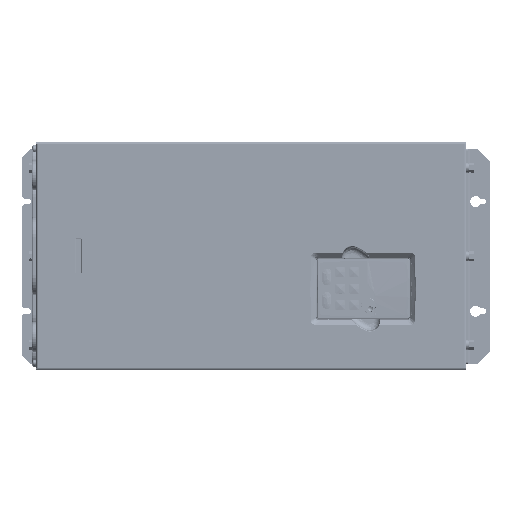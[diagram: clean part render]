
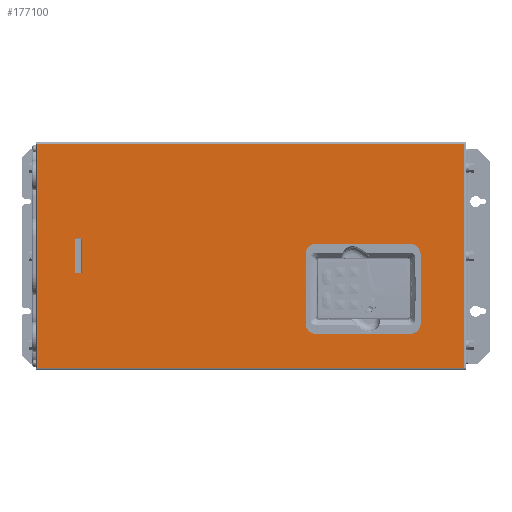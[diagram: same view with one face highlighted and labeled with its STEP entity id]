
A CAD part, top view. The second image highlights one B-rep face of the part: STEP entity #177100.
In plain terms, the highlighted planar face has unit normal (0, 0, 1) as drawn and (0, -1, 0) by its records, which use the part's own axes.
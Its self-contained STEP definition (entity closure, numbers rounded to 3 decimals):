
#174747=DIRECTION('',(-1.,0.,0.));
#174748=VECTOR('',#174747,265.2);
#174749=CARTESIAN_POINT('',(132.6,-1.2,252.6));
#174750=LINE('',#174749,#174748);
#174884=DIRECTION('',(0.,0.,-1.));
#174885=VECTOR('',#174884,505.2);
#174886=CARTESIAN_POINT('',(-132.6,-1.2,252.6));
#174887=LINE('',#174886,#174885);
#174897=DIRECTION('',(0.,0.,-1.));
#174898=VECTOR('',#174897,111.501);
#174899=CARTESIAN_POINT('',(92.5,-1.2,188.25));
#174900=LINE('',#174899,#174898);
#174901=CARTESIAN_POINT('',(80.,-1.2,188.25));
#174902=DIRECTION('',(0.,-1.,0.));
#174903=DIRECTION('',(1.,0.,0.));
#174904=AXIS2_PLACEMENT_3D('',#174901,#174902,#174903);
#174906=DIRECTION('',(1.,0.,0.));
#174907=VECTOR('',#174906,82.);
#174908=CARTESIAN_POINT('',(-2.,-1.2,200.75));
#174909=LINE('',#174908,#174907);
#174910=CARTESIAN_POINT('',(-2.,-1.2,188.25));
#174911=DIRECTION('',(0.,-1.,0.));
#174912=DIRECTION('',(0.,0.,1.));
#174913=AXIS2_PLACEMENT_3D('',#174910,#174911,#174912);
#174915=DIRECTION('',(0.,0.,1.));
#174916=VECTOR('',#174915,111.501);
#174917=CARTESIAN_POINT('',(-14.5,-1.2,76.749));
#174918=LINE('',#174917,#174916);
#174919=CARTESIAN_POINT('',(-2.,-1.2,76.749));
#174920=DIRECTION('',(0.,-1.,0.));
#174921=DIRECTION('',(-1.,0.,0.));
#174922=AXIS2_PLACEMENT_3D('',#174919,#174920,#174921);
#174924=DIRECTION('',(-1.,0.,0.));
#174925=VECTOR('',#174924,82.);
#174926=CARTESIAN_POINT('',(80.,-1.2,64.249));
#174927=LINE('',#174926,#174925);
#174928=CARTESIAN_POINT('',(80.,-1.2,76.749));
#174929=DIRECTION('',(0.,-1.,0.));
#174930=DIRECTION('',(0.,0.,-1.));
#174931=AXIS2_PLACEMENT_3D('',#174928,#174929,#174930);
#174933=DIRECTION('',(0.,0.,1.));
#174934=VECTOR('',#174933,6.6);
#174935=CARTESIAN_POINT('',(-20.7,-1.2,-208.3));
#174936=LINE('',#174935,#174934);
#174937=CARTESIAN_POINT('',(-20.3,-1.2,-208.3));
#174938=DIRECTION('',(0.,-1.,0.));
#174939=DIRECTION('',(-1.,0.,0.));
#174940=AXIS2_PLACEMENT_3D('',#174937,#174938,#174939);
#174942=DIRECTION('',(-1.,0.,0.));
#174943=VECTOR('',#174942,40.6);
#174944=CARTESIAN_POINT('',(20.3,-1.2,-208.7));
#174945=LINE('',#174944,#174943);
#174946=CARTESIAN_POINT('',(20.3,-1.2,-208.3));
#174947=DIRECTION('',(0.,-1.,0.));
#174948=DIRECTION('',(0.,0.,-1.));
#174949=AXIS2_PLACEMENT_3D('',#174946,#174947,#174948);
#174951=DIRECTION('',(0.,0.,-1.));
#174952=VECTOR('',#174951,6.6);
#174953=CARTESIAN_POINT('',(20.7,-1.2,-201.7));
#174954=LINE('',#174953,#174952);
#174955=CARTESIAN_POINT('',(20.3,-1.2,-201.7));
#174956=DIRECTION('',(0.,-1.,0.));
#174957=DIRECTION('',(1.,0.,0.));
#174958=AXIS2_PLACEMENT_3D('',#174955,#174956,#174957);
#174960=DIRECTION('',(1.,0.,0.));
#174961=VECTOR('',#174960,40.6);
#174962=CARTESIAN_POINT('',(-20.3,-1.2,-201.3));
#174963=LINE('',#174962,#174961);
#174964=CARTESIAN_POINT('',(-20.3,-1.2,-201.7));
#174965=DIRECTION('',(0.,-1.,0.));
#174966=DIRECTION('',(0.,0.,1.));
#174967=AXIS2_PLACEMENT_3D('',#174964,#174965,#174966);
#174982=DIRECTION('',(0.,0.,1.));
#174983=VECTOR('',#174982,505.2);
#174984=CARTESIAN_POINT('',(132.6,-1.2,-252.6));
#174985=LINE('',#174984,#174983);
#175091=DIRECTION('',(1.,0.,0.));
#175092=VECTOR('',#175091,265.2);
#175093=CARTESIAN_POINT('',(-132.6,-1.2,-252.6));
#175094=LINE('',#175093,#175092);
#175895=CARTESIAN_POINT('',(-132.6,-1.2,252.6));
#175896=VERTEX_POINT('',#175895);
#175899=CARTESIAN_POINT('',(132.6,-1.2,252.6));
#175900=VERTEX_POINT('',#175899);
#175927=CARTESIAN_POINT('',(132.6,-1.2,-252.6));
#175928=VERTEX_POINT('',#175927);
#175931=CARTESIAN_POINT('',(-132.6,-1.2,-252.6));
#175932=VERTEX_POINT('',#175931);
#176093=CARTESIAN_POINT('',(92.5,-1.2,188.25));
#176094=CARTESIAN_POINT('',(92.5,-1.2,76.749));
#176095=VERTEX_POINT('',#176093);
#176096=VERTEX_POINT('',#176094);
#176097=CARTESIAN_POINT('',(80.,-1.2,64.249));
#176098=VERTEX_POINT('',#176097);
#176099=CARTESIAN_POINT('',(-2.,-1.2,64.249));
#176100=VERTEX_POINT('',#176099);
#176101=CARTESIAN_POINT('',(-14.5,-1.2,76.749));
#176102=VERTEX_POINT('',#176101);
#176103=CARTESIAN_POINT('',(-14.5,-1.2,188.25));
#176104=VERTEX_POINT('',#176103);
#176105=CARTESIAN_POINT('',(-2.,-1.2,200.75));
#176106=VERTEX_POINT('',#176105);
#176107=CARTESIAN_POINT('',(80.,-1.2,200.75));
#176108=VERTEX_POINT('',#176107);
#176153=CARTESIAN_POINT('',(-20.7,-1.2,-208.3));
#176154=CARTESIAN_POINT('',(-20.7,-1.2,-201.7));
#176155=VERTEX_POINT('',#176153);
#176156=VERTEX_POINT('',#176154);
#176171=CARTESIAN_POINT('',(-20.3,-1.2,-201.3));
#176172=CARTESIAN_POINT('',(20.3,-1.2,-201.3));
#176173=VERTEX_POINT('',#176171);
#176174=VERTEX_POINT('',#176172);
#176179=CARTESIAN_POINT('',(20.7,-1.2,-201.7));
#176180=CARTESIAN_POINT('',(20.7,-1.2,-208.3));
#176181=VERTEX_POINT('',#176179);
#176182=VERTEX_POINT('',#176180);
#176197=CARTESIAN_POINT('',(20.3,-1.2,-208.7));
#176198=CARTESIAN_POINT('',(-20.3,-1.2,-208.7));
#176199=VERTEX_POINT('',#176197);
#176200=VERTEX_POINT('',#176198);
#177051=CARTESIAN_POINT('',(0.,-1.2,0.));
#177052=DIRECTION('',(0.,1.,0.));
#177053=DIRECTION('',(1.,0.,0.));
#177054=AXIS2_PLACEMENT_3D('',#177051,#177052,#177053);
#177055=PLANE('',#177054);
#177056=ORIENTED_EDGE('',*,*,#177042,.F.);
#177057=ORIENTED_EDGE('',*,*,#176851,.F.);
#177059=ORIENTED_EDGE('',*,*,#177058,.F.);
#177061=ORIENTED_EDGE('',*,*,#177060,.F.);
#177062=EDGE_LOOP('',(#177056,#177057,#177059,#177061));
#177063=FACE_OUTER_BOUND('',#177062,.F.);
#177065=ORIENTED_EDGE('',*,*,#177064,.F.);
#177067=ORIENTED_EDGE('',*,*,#177066,.T.);
#177069=ORIENTED_EDGE('',*,*,#177068,.F.);
#177071=ORIENTED_EDGE('',*,*,#177070,.T.);
#177073=ORIENTED_EDGE('',*,*,#177072,.F.);
#177075=ORIENTED_EDGE('',*,*,#177074,.T.);
#177077=ORIENTED_EDGE('',*,*,#177076,.F.);
#177079=ORIENTED_EDGE('',*,*,#177078,.T.);
#177080=EDGE_LOOP('',(#177065,#177067,#177069,#177071,#177073,#177075,#177077,
#177079));
#177081=FACE_BOUND('',#177080,.F.);
#177083=ORIENTED_EDGE('',*,*,#177082,.F.);
#177085=ORIENTED_EDGE('',*,*,#177084,.T.);
#177087=ORIENTED_EDGE('',*,*,#177086,.F.);
#177089=ORIENTED_EDGE('',*,*,#177088,.T.);
#177091=ORIENTED_EDGE('',*,*,#177090,.F.);
#177093=ORIENTED_EDGE('',*,*,#177092,.T.);
#177095=ORIENTED_EDGE('',*,*,#177094,.F.);
#177097=ORIENTED_EDGE('',*,*,#177096,.T.);
#177098=EDGE_LOOP('',(#177083,#177085,#177087,#177089,#177091,#177093,#177095,
#177097));
#177099=FACE_BOUND('',#177098,.F.);
#174905=CIRCLE('',#174904,12.5);
#174914=CIRCLE('',#174913,12.5);
#174923=CIRCLE('',#174922,12.5);
#174932=CIRCLE('',#174931,12.5);
#174941=CIRCLE('',#174940,0.4);
#174950=CIRCLE('',#174949,0.4);
#174959=CIRCLE('',#174958,0.4);
#174968=CIRCLE('',#174967,0.4);
#176851=EDGE_CURVE('',#175900,#175896,#174750,.T.);
#177042=EDGE_CURVE('',#175896,#175932,#174887,.T.);
#177058=EDGE_CURVE('',#175928,#175900,#174985,.T.);
#177060=EDGE_CURVE('',#175932,#175928,#175094,.T.);
#177064=EDGE_CURVE('',#176095,#176096,#174900,.T.);
#177066=EDGE_CURVE('',#176095,#176108,#174905,.T.);
#177068=EDGE_CURVE('',#176106,#176108,#174909,.T.);
#177070=EDGE_CURVE('',#176106,#176104,#174914,.T.);
#177072=EDGE_CURVE('',#176102,#176104,#174918,.T.);
#177074=EDGE_CURVE('',#176102,#176100,#174923,.T.);
#177076=EDGE_CURVE('',#176098,#176100,#174927,.T.);
#177078=EDGE_CURVE('',#176098,#176096,#174932,.T.);
#177082=EDGE_CURVE('',#176155,#176156,#174936,.T.);
#177084=EDGE_CURVE('',#176155,#176200,#174941,.T.);
#177086=EDGE_CURVE('',#176199,#176200,#174945,.T.);
#177088=EDGE_CURVE('',#176199,#176182,#174950,.T.);
#177090=EDGE_CURVE('',#176181,#176182,#174954,.T.);
#177092=EDGE_CURVE('',#176181,#176174,#174959,.T.);
#177094=EDGE_CURVE('',#176173,#176174,#174963,.T.);
#177096=EDGE_CURVE('',#176173,#176156,#174968,.T.);
#177100=ADVANCED_FACE('',(#177063,#177081,#177099),#177055,.F.);
